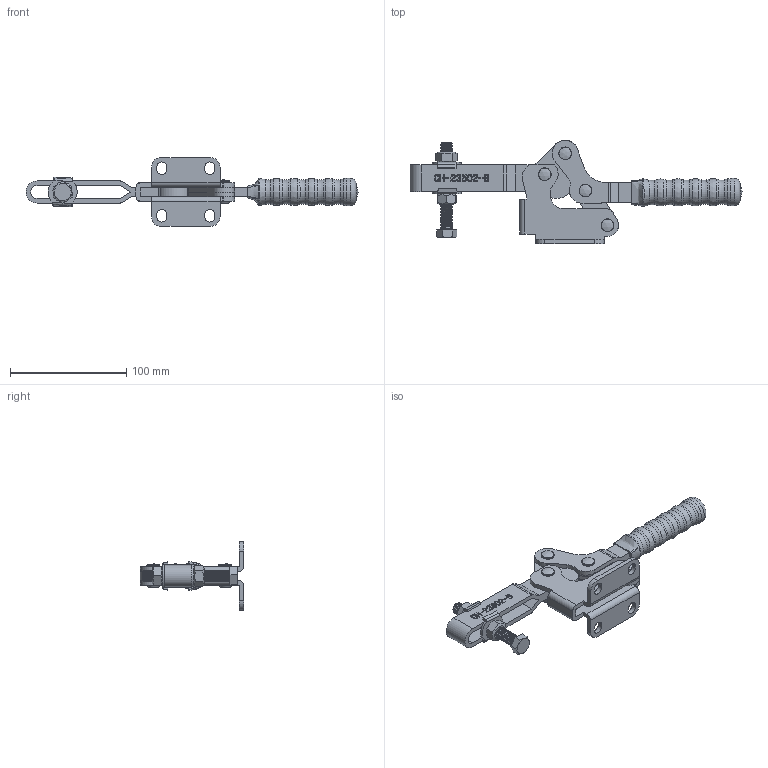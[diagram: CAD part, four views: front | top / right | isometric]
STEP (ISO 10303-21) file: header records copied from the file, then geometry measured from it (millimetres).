
FILE_DESCRIPTION(/* description */ ('STEP AP203'),/* implementation_level */ '2;1');
FILE_NAME(/* name */ 'E:\STRONA\Horizontal toggle clamp\CH-23502-B\CH-23502-B_ZAMKNIETY.stp',/* time_stamp */ '2019-01-15T16:55:19+01:00',/* author */ ('Admin'),/* organization */ ('·L?¤¤?'),/* preprocessor_version */ 'ST-DEVELOPER v17.2',/* originating_system */ 'Autodesk Inventor 2019',/* authorisation */ '');
FILE_SCHEMA (('AUTOMOTIVE_DESIGN { 1 0 10303 214 3 1 1 }'));
Length unit declared in the file: millimetre
Products named in the file (11): CH-23502-B_ZAMKNIETY; CH-FC-107512___; M10___; 23502-B-07___; 23502-B-04___; 23502-B-03___; FW380___; 23502-B-02___; 23502-B-06___; 23502-B-05___; 23502-B-01___
Assembly tree (19 placements, depth 2):
  CH-23502-B_ZAMKNIETY
    CH-FC-107512___
    23502-B-05___  x4
    23502-B-06___  x4
    M10___  x2
    23502-B-04___  x2
    23502-B-07___
    23502-B-03___
    FW380___  x2
    23502-B-02___
    23502-B-01___
Bounding box: 285.56 x 89.21 x 59 mm (x, y, z)
Volume: 134489.2 mm3; surface area: 78553.3 mm2
Topology: 19 solids, 19 shells, 727 faces, 2019 edges, 1367 vertices
Faces by surface type: plane 313, bspline 226, cylinder 123, cone 34, torus 23, sphere 8
Full cylindrical faces by diameter (mm): 4.4 x1, 5.6 x1, 7.5 x4, 7.95 x4, 8 x8, 8.4 x8, 9.8 x2, 10 x1, 10.1 x4, 11 x10, 11.2 x4, 23.323 x1
Entity records: 77043 total; most frequent: CARTESIAN_POINT 61768, ORIENTED_EDGE 3480, DIRECTION 2435, EDGE_CURVE 1740, VERTEX_POINT 1169, LINE 953, VECTOR 953, AXIS2_PLACEMENT_3D 741
